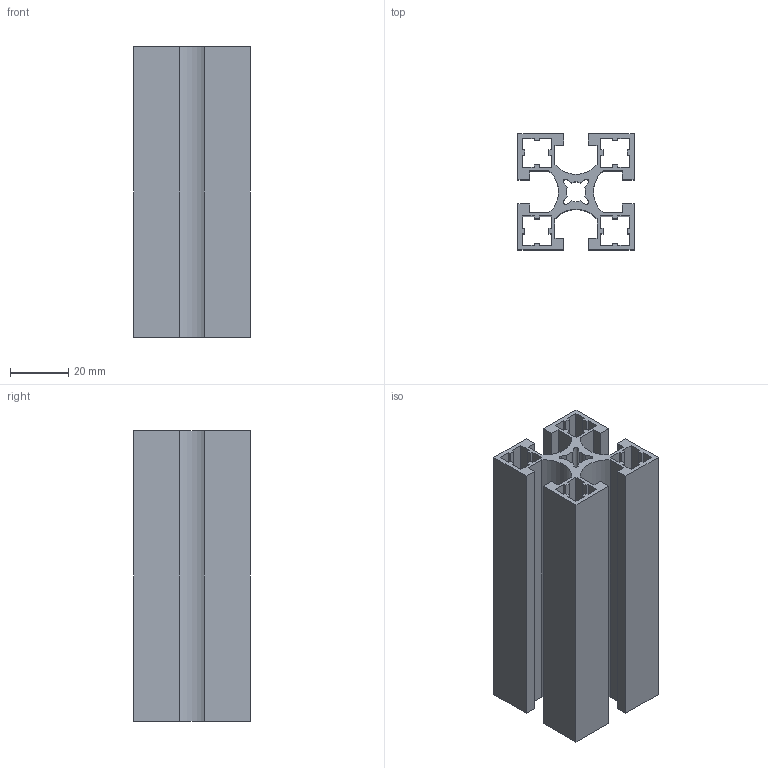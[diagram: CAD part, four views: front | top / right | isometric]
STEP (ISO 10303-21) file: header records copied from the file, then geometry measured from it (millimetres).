
FILE_DESCRIPTION(/* description */ ('Unknown'),/* implementation_level */ '2;1');
FILE_NAME(/* name */ 'NM4040A',/* time_stamp */ '2026-08-31T11:35:06+08:00',/* author */ ('Unknown'),/* organization */ ('Unknown'),/* preprocessor_version */ 'ST-DEVELOPER v16.7',/* originating_system */ 'DEX',/* authorisation */ $);
FILE_SCHEMA (('AUTOMOTIVE_DESIGN {1 0 10303 214 3 1 1}'));
Length unit declared in the file: millimetre
Products named in the file (1): 4040A-
Bounding box: 40 x 40 x 100 mm (x, y, z)
Volume: 50681.6 mm3; surface area: 54094.4 mm2
Topology: 1 solids, 1 shells, 134 faces, 396 edges, 264 vertices
Faces by surface type: plane 122, cylinder 12
Entity records: 4454 total; most frequent: CARTESIAN_POINT 795, ORIENTED_EDGE 792, DIRECTION 690, EDGE_CURVE 396, LINE 372, VECTOR 372, VERTEX_POINT 264, AXIS2_PLACEMENT_3D 159
